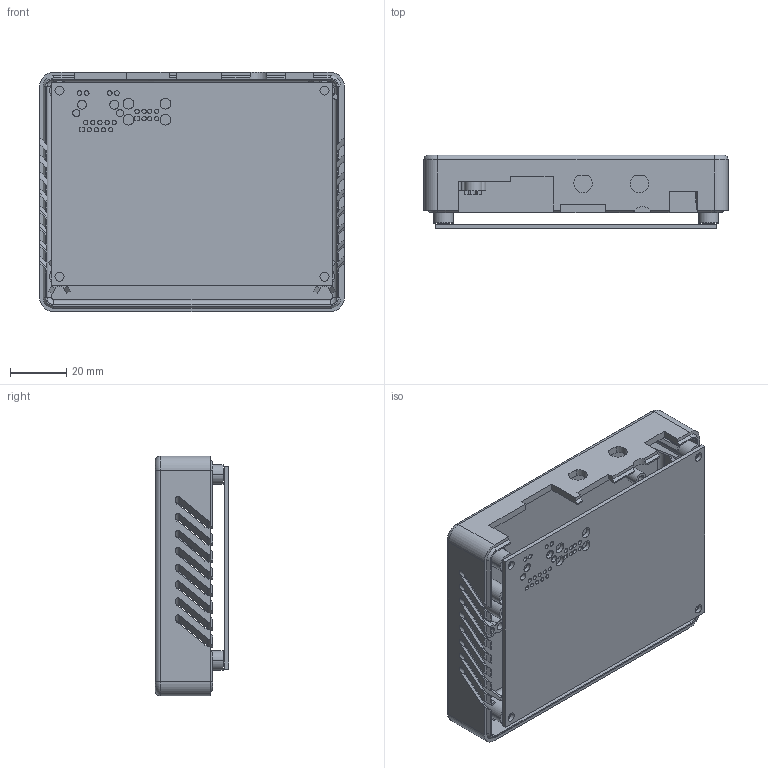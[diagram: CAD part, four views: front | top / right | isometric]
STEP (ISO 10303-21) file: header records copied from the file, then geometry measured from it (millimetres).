
FILE_DESCRIPTION((''),'2;1');
FILE_NAME('64001220_COVER_CC6_SBC_V1','2015-02-04T',('mlarsen'),(''),'PRO/ENGINEER BY PARAMETRIC TECHNOLOGY CORPORATION, 2014090','PRO/ENGINEER BY PARAMETRIC TECHNOLOGY CORPORATION, 2014090','');
FILE_SCHEMA(('CONFIG_CONTROL_DESIGN'));
Length unit declared in the file: millimetre
Products named in the file (1): 64001220_COVER_CC6_SBC_V1
Bounding box: 108 x 26 x 85 mm (x, y, z)
Volume: 39864.1 mm3; surface area: 51988.2 mm2
Topology: 1 solids, 2 shells, 781 faces, 2192 edges, 1451 vertices
Faces by surface type: plane 350, extrusion 227, cylinder 184, cone 12, torus 4, bspline 4
Entity records: 26977 total; most frequent: CARTESIAN_POINT 7512, ORIENTED_EDGE 4384, DIRECTION 3246, EDGE_CURVE 2192, VECTOR 1476, VERTEX_POINT 1451, LINE 1249, EDGE_LOOP 901
